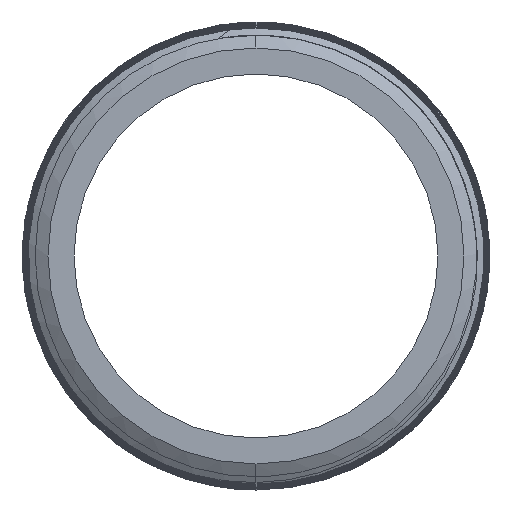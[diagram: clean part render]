
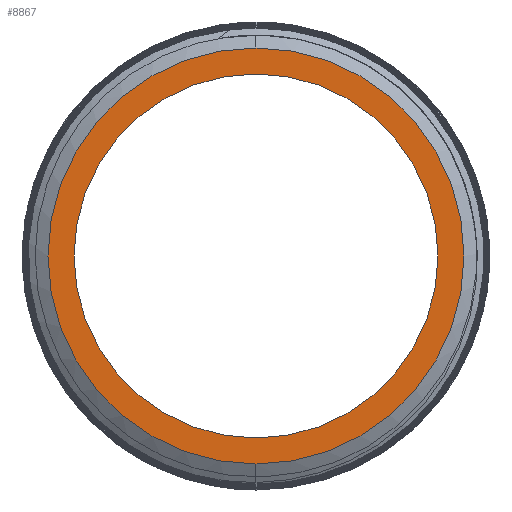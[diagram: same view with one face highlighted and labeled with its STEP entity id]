
A CAD part, left-side view. The second image highlights one B-rep face of the part: STEP entity #8867.
In plain terms, the highlighted planar face has unit normal (-1, 0, 0).
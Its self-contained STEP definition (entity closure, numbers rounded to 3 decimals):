
#316 = VERTEX_POINT ( 'NONE', #6279 ) ;
#390 = DIRECTION ( 'NONE',  ( 0., 0., -1. ) ) ;
#482 = DIRECTION ( 'NONE',  ( 0., 0., 1. ) ) ;
#539 = DIRECTION ( 'NONE',  ( -1., 0., 0. ) ) ;
#691 = ORIENTED_EDGE ( 'NONE', *, *, #1148, .T. ) ;
#1038 = CARTESIAN_POINT ( 'NONE',  ( -75., 0., 0. ) ) ;
#1056 = CIRCLE ( 'NONE', #10707, 6. ) ;
#1066 = CIRCLE ( 'NONE', #5619, 5.25 ) ;
#1148 = EDGE_CURVE ( 'NONE', #8012, #316, #1056, .T. ) ;
#1269 = CARTESIAN_POINT ( 'NONE',  ( -75., 5.25, 0. ) ) ;
#1580 = EDGE_LOOP ( 'NONE', ( #10021, #2631 ) ) ;
#2437 = FACE_OUTER_BOUND ( 'NONE', #4798, .T. ) ;
#2631 = ORIENTED_EDGE ( 'NONE', *, *, #3108, .F. ) ;
#3056 = VERTEX_POINT ( 'NONE', #6521 ) ;
#3108 = EDGE_CURVE ( 'NONE', #3056, #10302, #1066, .T. ) ;
#3303 = CIRCLE ( 'NONE', #6961, 5.25 ) ;
#3462 = AXIS2_PLACEMENT_3D ( 'NONE', #6016, #7875, #5184 ) ;
#3467 = DIRECTION ( 'NONE',  ( -1., 0., 0. ) ) ;
#4295 = CARTESIAN_POINT ( 'NONE',  ( -75., 0., 0. ) ) ;
#4386 = DIRECTION ( 'NONE',  ( 0., 0., 1. ) ) ;
#4404 = DIRECTION ( 'NONE',  ( 1., 0., 0. ) ) ;
#4703 = CARTESIAN_POINT ( 'NONE',  ( -75., 0., 0. ) ) ;
#4798 = EDGE_LOOP ( 'NONE', ( #691, #10638 ) ) ;
#5168 = CARTESIAN_POINT ( 'NONE',  ( -75., 0., -6. ) ) ;
#5184 = DIRECTION ( 'NONE',  ( 0., 0., 1. ) ) ;
#5202 = DIRECTION ( 'NONE',  ( -1., 0., 0. ) ) ;
#5619 = AXIS2_PLACEMENT_3D ( 'NONE', #4703, #539, #482 ) ;
#6016 = CARTESIAN_POINT ( 'NONE',  ( -75., 0., 0. ) ) ;
#6279 = CARTESIAN_POINT ( 'NONE',  ( -75., 0., 6. ) ) ;
#6521 = CARTESIAN_POINT ( 'NONE',  ( -75., 0., -5.25 ) ) ;
#6717 = CARTESIAN_POINT ( 'NONE',  ( -75., 0., 5.25 ) ) ;
#6817 = DIRECTION ( 'NONE',  ( 0., 0., 1. ) ) ;
#6874 = FACE_BOUND ( 'NONE', #1580, .T. ) ;
#6961 = AXIS2_PLACEMENT_3D ( 'NONE', #4295, #3467, #6817 ) ;
#7401 = EDGE_CURVE ( 'NONE', #316, #8012, #8013, .T. ) ;
#7875 = DIRECTION ( 'NONE',  ( -1., 0., 0. ) ) ;
#8012 = VERTEX_POINT ( 'NONE', #5168 ) ;
#8013 = CIRCLE ( 'NONE', #3462, 6. ) ;
#8321 = PLANE ( 'NONE',  #10148 ) ;
#8867 = ADVANCED_FACE ( 'NONE', ( #6874, #2437 ), #8321, .F. ) ;
#9355 = EDGE_CURVE ( 'NONE', #10302, #3056, #3303, .T. ) ;
#10021 = ORIENTED_EDGE ( 'NONE', *, *, #9355, .F. ) ;
#10148 = AXIS2_PLACEMENT_3D ( 'NONE', #1269, #4404, #390 ) ;
#10302 = VERTEX_POINT ( 'NONE', #6717 ) ;
#10638 = ORIENTED_EDGE ( 'NONE', *, *, #7401, .T. ) ;
#10707 = AXIS2_PLACEMENT_3D ( 'NONE', #1038, #5202, #4386 ) ;
